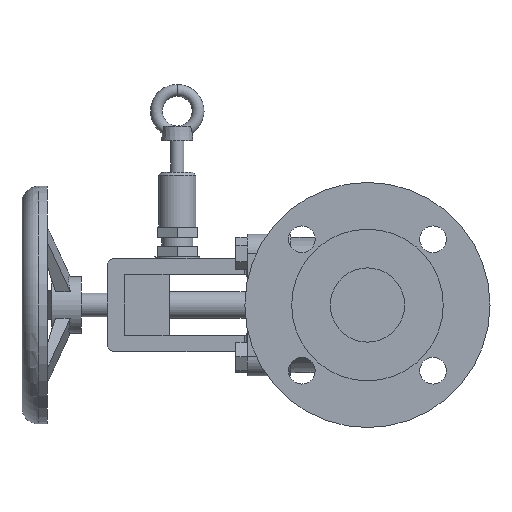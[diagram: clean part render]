
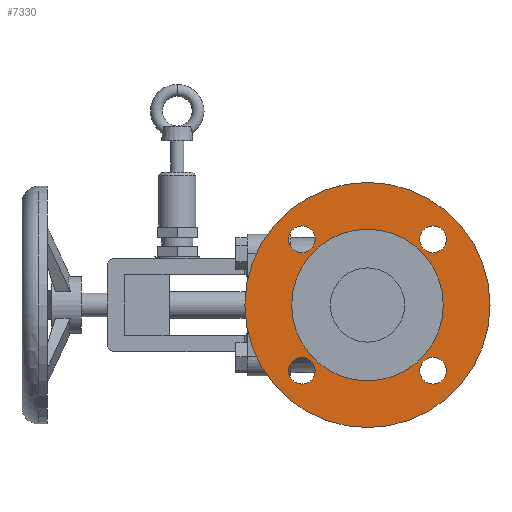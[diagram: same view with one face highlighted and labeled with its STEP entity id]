
A CAD part, left-side view. The second image highlights one B-rep face of the part: STEP entity #7330.
In plain terms, the highlighted planar face has unit normal (-1, 0, 0).
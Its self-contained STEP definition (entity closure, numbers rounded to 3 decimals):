
#1573=FACE_BOUND('',#2633,.T.);
#1574=FACE_BOUND('',#2634,.T.);
#1575=FACE_BOUND('',#2635,.T.);
#1576=FACE_BOUND('',#2636,.T.);
#1577=FACE_BOUND('',#2637,.T.);
#1828=PLANE('',#7813);
#2202=FACE_OUTER_BOUND('',#2632,.T.);
#2632=EDGE_LOOP('',(#6499));
#2633=EDGE_LOOP('',(#6500));
#2634=EDGE_LOOP('',(#6501));
#2635=EDGE_LOOP('',(#6502));
#2636=EDGE_LOOP('',(#6503));
#2637=EDGE_LOOP('',(#6504));
#2927=CIRCLE('',#7743,82.5);
#2930=CIRCLE('',#7747,9.);
#2932=CIRCLE('',#7750,9.);
#2934=CIRCLE('',#7753,9.);
#2936=CIRCLE('',#7756,9.);
#2937=CIRCLE('',#7758,51.);
#3543=VERTEX_POINT('',#12606);
#3546=VERTEX_POINT('',#12614);
#3548=VERTEX_POINT('',#12620);
#3550=VERTEX_POINT('',#12626);
#3552=VERTEX_POINT('',#12632);
#3553=VERTEX_POINT('',#12636);
#4486=EDGE_CURVE('',#3543,#3543,#2927,.T.);
#4491=EDGE_CURVE('',#3546,#3546,#2930,.T.);
#4494=EDGE_CURVE('',#3548,#3548,#2932,.T.);
#4497=EDGE_CURVE('',#3550,#3550,#2934,.T.);
#4500=EDGE_CURVE('',#3552,#3552,#2936,.T.);
#4501=EDGE_CURVE('',#3553,#3553,#2937,.T.);
#6499=ORIENTED_EDGE('',*,*,#4486,.F.);
#6500=ORIENTED_EDGE('',*,*,#4494,.F.);
#6501=ORIENTED_EDGE('',*,*,#4497,.F.);
#6502=ORIENTED_EDGE('',*,*,#4500,.F.);
#6503=ORIENTED_EDGE('',*,*,#4491,.F.);
#6504=ORIENTED_EDGE('',*,*,#4501,.F.);
#7330=ADVANCED_FACE('',(#2202,#1573,#1574,#1575,#1576,#1577),#1828,.F.);
#7743=AXIS2_PLACEMENT_3D('',#12607,#9178,#9179);
#7747=AXIS2_PLACEMENT_3D('',#12616,#9188,#9189);
#7750=AXIS2_PLACEMENT_3D('',#12622,#9195,#9196);
#7753=AXIS2_PLACEMENT_3D('',#12628,#9202,#9203);
#7756=AXIS2_PLACEMENT_3D('',#12634,#9209,#9210);
#7758=AXIS2_PLACEMENT_3D('',#12637,#9213,#9214);
#7813=AXIS2_PLACEMENT_3D('',#12800,#9390,#9391);
#9178=DIRECTION('center_axis',(1.,0.,0.));
#9179=DIRECTION('ref_axis',(0.,0.,-1.));
#9188=DIRECTION('center_axis',(-1.,0.,0.));
#9189=DIRECTION('ref_axis',(0.,0.,-1.));
#9195=DIRECTION('center_axis',(-1.,0.,0.));
#9196=DIRECTION('ref_axis',(0.,0.,-1.));
#9202=DIRECTION('center_axis',(-1.,0.,0.));
#9203=DIRECTION('ref_axis',(0.,0.,-1.));
#9209=DIRECTION('center_axis',(-1.,0.,0.));
#9210=DIRECTION('ref_axis',(0.,0.,-1.));
#9213=DIRECTION('center_axis',(-1.,0.,0.));
#9214=DIRECTION('ref_axis',(0.,1.,0.));
#9390=DIRECTION('center_axis',(1.,0.,0.));
#9391=DIRECTION('ref_axis',(0.,0.,-1.));
#12606=CARTESIAN_POINT('',(-101.192,-80.2,49.5));
#12607=CARTESIAN_POINT('Origin',(-101.192,-80.2,-33.));
#12614=CARTESIAN_POINT('',(-101.192,-36.006,-68.194));
#12616=CARTESIAN_POINT('Origin',(-101.192,-36.006,-77.194));
#12620=CARTESIAN_POINT('',(-101.192,-124.394,-68.194));
#12622=CARTESIAN_POINT('Origin',(-101.192,-124.394,-77.194));
#12626=CARTESIAN_POINT('',(-101.192,-124.394,20.194));
#12628=CARTESIAN_POINT('Origin',(-101.192,-124.394,11.194));
#12632=CARTESIAN_POINT('',(-101.192,-36.006,20.194));
#12634=CARTESIAN_POINT('Origin',(-101.192,-36.006,11.194));
#12636=CARTESIAN_POINT('',(-101.192,-131.2,-33.));
#12637=CARTESIAN_POINT('Origin',(-101.192,-80.2,-33.));
#12800=CARTESIAN_POINT('Origin',(-101.192,-13.45,-33.));
